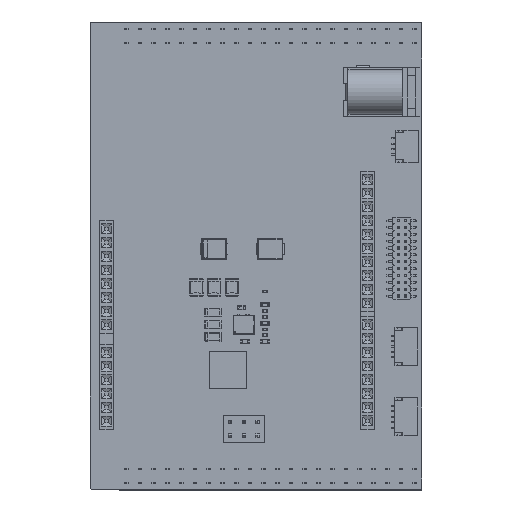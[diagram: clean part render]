
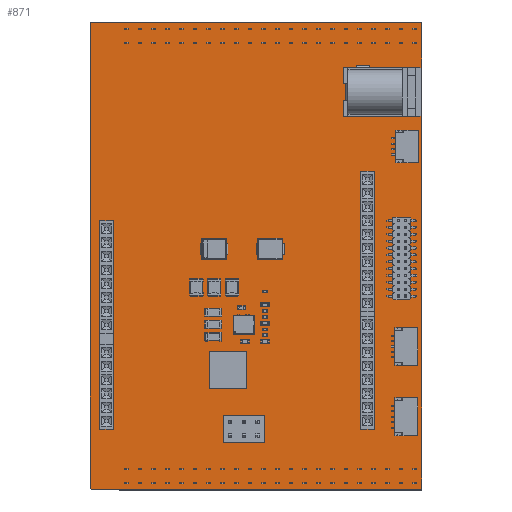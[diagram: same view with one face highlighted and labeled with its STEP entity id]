
A CAD part, top view. The second image highlights one B-rep face of the part: STEP entity #871.
In plain terms, the highlighted planar face has unit normal (0, 0, 1).
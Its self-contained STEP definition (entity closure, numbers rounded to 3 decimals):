
#172 = VERTEX_POINT('',#173);
#173 = CARTESIAN_POINT('',(0.493,0.,1.606)
  );
#179 = EDGE_CURVE('',#172,#180,#182,.T.);
#180 = VERTEX_POINT('',#181);
#181 = CARTESIAN_POINT('',(0.,0.5,1.606));
#182 = CIRCLE('',#183,0.498);
#183 = AXIS2_PLACEMENT_3D('',#184,#185,#186);
#184 = CARTESIAN_POINT('',(0.498,0.498,1.606));
#185 = DIRECTION('',(0.,0.,-1.));
#186 = DIRECTION('',(0.003,-1.,0.));
#214 = VERTEX_POINT('',#215);
#215 = CARTESIAN_POINT('',(0.5,0.,1.606));
#221 = EDGE_CURVE('',#214,#172,#222,.T.);
#222 = CIRCLE('',#223,0.498);
#223 = AXIS2_PLACEMENT_3D('',#224,#225,#226);
#224 = CARTESIAN_POINT('',(0.498,0.498,1.606));
#225 = DIRECTION('',(0.,0.,-1.));
#226 = DIRECTION('',(0.003,-1.,0.));
#247 = VERTEX_POINT('',#248);
#248 = CARTESIAN_POINT('',(60.776,0.,1.606));
#254 = EDGE_CURVE('',#247,#214,#255,.T.);
#255 = LINE('',#256,#257);
#256 = CARTESIAN_POINT('',(60.776,0.,1.606));
#257 = VECTOR('',#258,1.);
#258 = DIRECTION('',(-1.,0.,0.));
#278 = VERTEX_POINT('',#279);
#279 = CARTESIAN_POINT('',(60.78,0.,1.606
    ));
#285 = EDGE_CURVE('',#278,#247,#286,.T.);
#286 = CIRCLE('',#287,0.498);
#287 = AXIS2_PLACEMENT_3D('',#288,#289,#290);
#288 = CARTESIAN_POINT('',(60.778,0.498,1.606));
#289 = DIRECTION('',(0.,0.,-1.));
#290 = DIRECTION('',(1.,0.003,0.));
#311 = VERTEX_POINT('',#312);
#312 = CARTESIAN_POINT('',(61.276,0.499,1.606));
#318 = EDGE_CURVE('',#311,#278,#319,.T.);
#319 = CIRCLE('',#320,0.498);
#320 = AXIS2_PLACEMENT_3D('',#321,#322,#323);
#321 = CARTESIAN_POINT('',(60.778,0.498,1.606));
#322 = DIRECTION('',(0.,0.,-1.));
#323 = DIRECTION('',(1.,0.003,0.));
#344 = VERTEX_POINT('',#345);
#345 = CARTESIAN_POINT('',(61.276,0.5,1.606));
#351 = EDGE_CURVE('',#344,#311,#352,.T.);
#352 = CIRCLE('',#353,1.);
#353 = AXIS2_PLACEMENT_3D('',#354,#355,#356);
#354 = CARTESIAN_POINT('',(62.276,0.5,1.606));
#355 = DIRECTION('',(0.,0.,1.));
#356 = DIRECTION('',(-1.,0.,-0.));
#377 = VERTEX_POINT('',#378);
#378 = CARTESIAN_POINT('',(61.276,13.,1.606));
#384 = EDGE_CURVE('',#377,#344,#385,.T.);
#385 = LINE('',#386,#387);
#386 = CARTESIAN_POINT('',(61.276,13.,1.606));
#387 = VECTOR('',#388,1.);
#388 = DIRECTION('',(0.,-1.,0.));
#408 = VERTEX_POINT('',#409);
#409 = CARTESIAN_POINT('',(61.276,13.01,1.606));
#415 = EDGE_CURVE('',#408,#377,#416,.T.);
#416 = CIRCLE('',#417,1.);
#417 = AXIS2_PLACEMENT_3D('',#418,#419,#420);
#418 = CARTESIAN_POINT('',(62.276,13.,1.606));
#419 = DIRECTION('',(0.,0.,1.));
#420 = DIRECTION('',(1.,0.,0.));
#441 = VERTEX_POINT('',#442);
#442 = CARTESIAN_POINT('',(61.276,17.991,1.606));
#448 = EDGE_CURVE('',#441,#408,#449,.T.);
#449 = LINE('',#450,#451);
#450 = CARTESIAN_POINT('',(61.276,86.,1.606));
#451 = VECTOR('',#452,1.);
#452 = DIRECTION('',(0.,-1.,0.));
#472 = VERTEX_POINT('',#473);
#473 = CARTESIAN_POINT('',(61.276,18.,1.606));
#479 = EDGE_CURVE('',#472,#441,#480,.T.);
#480 = CIRCLE('',#481,1.);
#481 = AXIS2_PLACEMENT_3D('',#482,#483,#484);
#482 = CARTESIAN_POINT('',(62.276,18.,1.606));
#483 = DIRECTION('',(0.,0.,1.));
#484 = DIRECTION('',(-1.,0.,0.));
#505 = VERTEX_POINT('',#506);
#506 = CARTESIAN_POINT('',(61.276,68.5,1.606));
#512 = EDGE_CURVE('',#505,#472,#513,.T.);
#513 = LINE('',#514,#515);
#514 = CARTESIAN_POINT('',(61.276,68.5,1.606));
#515 = VECTOR('',#516,1.);
#516 = DIRECTION('',(0.,-1.,0.));
#536 = VERTEX_POINT('',#537);
#537 = CARTESIAN_POINT('',(61.276,68.508,1.606));
#543 = EDGE_CURVE('',#536,#505,#544,.T.);
#544 = CIRCLE('',#545,1.);
#545 = AXIS2_PLACEMENT_3D('',#546,#547,#548);
#546 = CARTESIAN_POINT('',(62.276,68.5,1.606));
#547 = DIRECTION('',(0.,0.,1.));
#548 = DIRECTION('',(1.,0.,0.));
#569 = VERTEX_POINT('',#570);
#570 = CARTESIAN_POINT('',(61.276,73.49,1.606));
#576 = EDGE_CURVE('',#569,#536,#577,.T.);
#577 = LINE('',#578,#579);
#578 = CARTESIAN_POINT('',(61.276,86.,1.606));
#579 = VECTOR('',#580,1.);
#580 = DIRECTION('',(0.,-1.,0.));
#600 = VERTEX_POINT('',#601);
#601 = CARTESIAN_POINT('',(61.276,73.5,1.606));
#607 = EDGE_CURVE('',#600,#569,#608,.T.);
#608 = CIRCLE('',#609,1.);
#609 = AXIS2_PLACEMENT_3D('',#610,#611,#612);
#610 = CARTESIAN_POINT('',(62.276,73.5,1.606));
#611 = DIRECTION('',(0.,0.,1.));
#612 = DIRECTION('',(-1.,0.,-0.));
#633 = VERTEX_POINT('',#634);
#634 = CARTESIAN_POINT('',(61.276,86.,1.606));
#640 = EDGE_CURVE('',#633,#600,#641,.T.);
#641 = LINE('',#642,#643);
#642 = CARTESIAN_POINT('',(61.276,86.,1.606));
#643 = VECTOR('',#644,1.);
#644 = DIRECTION('',(0.,-1.,0.));
#664 = VERTEX_POINT('',#665);
#665 = CARTESIAN_POINT('',(60.798,86.5,1.606));
#671 = EDGE_CURVE('',#664,#633,#672,.T.);
#672 = CIRCLE('',#673,0.498);
#673 = AXIS2_PLACEMENT_3D('',#674,#675,#676);
#674 = CARTESIAN_POINT('',(60.778,86.002,1.606));
#675 = DIRECTION('',(0.,0.,-1.));
#676 = DIRECTION('',(-0.003,1.,0.));
#697 = VERTEX_POINT('',#698);
#698 = CARTESIAN_POINT('',(60.776,86.5,1.606));
#704 = EDGE_CURVE('',#697,#664,#705,.T.);
#705 = CIRCLE('',#706,0.498);
#706 = AXIS2_PLACEMENT_3D('',#707,#708,#709);
#707 = CARTESIAN_POINT('',(60.778,86.002,1.606));
#708 = DIRECTION('',(0.,0.,-1.));
#709 = DIRECTION('',(-0.003,1.,0.));
#730 = VERTEX_POINT('',#731);
#731 = CARTESIAN_POINT('',(0.5,86.5,1.606));
#737 = EDGE_CURVE('',#730,#697,#738,.T.);
#738 = LINE('',#739,#740);
#739 = CARTESIAN_POINT('',(0.5,86.5,1.606));
#740 = VECTOR('',#741,1.);
#741 = DIRECTION('',(1.,0.,0.));
#761 = VERTEX_POINT('',#762);
#762 = CARTESIAN_POINT('',(0.488,86.5,1.606));
#768 = EDGE_CURVE('',#761,#730,#769,.T.);
#769 = CIRCLE('',#770,0.498);
#770 = AXIS2_PLACEMENT_3D('',#771,#772,#773);
#771 = CARTESIAN_POINT('',(0.498,86.002,1.606));
#772 = DIRECTION('',(0.,0.,-1.));
#773 = DIRECTION('',(-1.,-0.003,-0.));
#794 = VERTEX_POINT('',#795);
#795 = CARTESIAN_POINT('',(0.,86.,
    1.606));
#801 = EDGE_CURVE('',#794,#761,#802,.T.);
#802 = CIRCLE('',#803,0.498);
#803 = AXIS2_PLACEMENT_3D('',#804,#805,#806);
#804 = CARTESIAN_POINT('',(0.498,86.002,1.606));
#805 = DIRECTION('',(0.,0.,-1.));
#806 = DIRECTION('',(-1.,-0.003,-0.));
#825 = EDGE_CURVE('',#180,#794,#826,.T.);
#826 = LINE('',#827,#828);
#827 = CARTESIAN_POINT('',(0.,0.5,1.606));
#828 = VECTOR('',#829,1.);
#829 = DIRECTION('',(0.,1.,0.));
#871 = ADVANCED_FACE('',(#872),#895,.F.);
#872 = FACE_BOUND('',#873,.F.);
#873 = EDGE_LOOP('',(#874,#875,#876,#877,#878,#879,#880,#881,#882,#883,
    #884,#885,#886,#887,#888,#889,#890,#891,#892,#893,#894));
#874 = ORIENTED_EDGE('',*,*,#179,.T.);
#875 = ORIENTED_EDGE('',*,*,#825,.T.);
#876 = ORIENTED_EDGE('',*,*,#801,.T.);
#877 = ORIENTED_EDGE('',*,*,#768,.T.);
#878 = ORIENTED_EDGE('',*,*,#737,.T.);
#879 = ORIENTED_EDGE('',*,*,#704,.T.);
#880 = ORIENTED_EDGE('',*,*,#671,.T.);
#881 = ORIENTED_EDGE('',*,*,#640,.T.);
#882 = ORIENTED_EDGE('',*,*,#607,.T.);
#883 = ORIENTED_EDGE('',*,*,#576,.T.);
#884 = ORIENTED_EDGE('',*,*,#543,.T.);
#885 = ORIENTED_EDGE('',*,*,#512,.T.);
#886 = ORIENTED_EDGE('',*,*,#479,.T.);
#887 = ORIENTED_EDGE('',*,*,#448,.T.);
#888 = ORIENTED_EDGE('',*,*,#415,.T.);
#889 = ORIENTED_EDGE('',*,*,#384,.T.);
#890 = ORIENTED_EDGE('',*,*,#351,.T.);
#891 = ORIENTED_EDGE('',*,*,#318,.T.);
#892 = ORIENTED_EDGE('',*,*,#285,.T.);
#893 = ORIENTED_EDGE('',*,*,#254,.T.);
#894 = ORIENTED_EDGE('',*,*,#221,.T.);
#895 = PLANE('',#896);
#896 = AXIS2_PLACEMENT_3D('',#897,#898,#899);
#897 = CARTESIAN_POINT('',(30.638,43.25,1.606));
#898 = DIRECTION('',(-0.,-0.,-1.));
#899 = DIRECTION('',(-1.,0.,0.));
